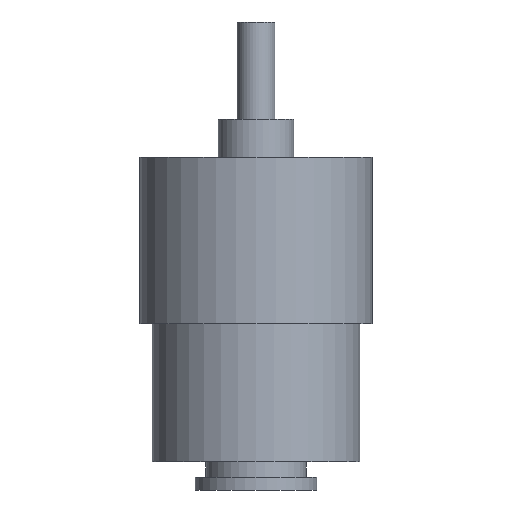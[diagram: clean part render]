
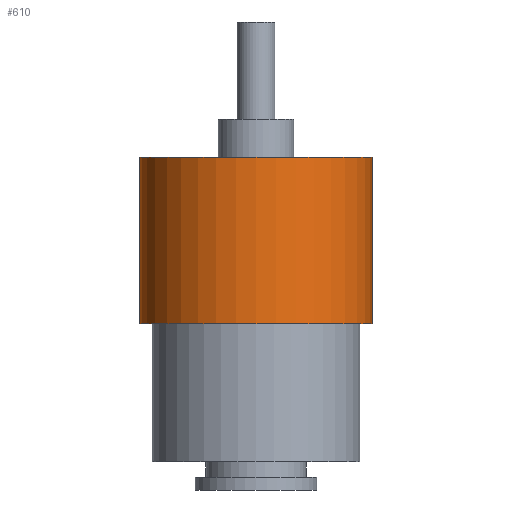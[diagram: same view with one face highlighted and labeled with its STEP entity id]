
A CAD part, front view. The second image highlights one B-rep face of the part: STEP entity #610.
In plain terms, the highlighted cylindrical face has radius 18.5 mm (diameter 37 mm), a partial arc.
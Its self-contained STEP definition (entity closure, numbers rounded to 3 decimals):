
#20 = VERTEX_POINT ( 'NONE', #588 ) ;
#75 = EDGE_CURVE ( 'NONE', #231, #1238, #1154, .T. ) ;
#85 = ORIENTED_EDGE ( 'NONE', *, *, #75, .T. ) ;
#89 = DIRECTION ( 'NONE',  ( 1., 0., 0. ) ) ;
#113 = DIRECTION ( 'NONE',  ( -1., 0., 0. ) ) ;
#169 = CARTESIAN_POINT ( 'NONE',  ( 18.5, 0., 26.5 ) ) ;
#206 = DIRECTION ( 'NONE',  ( 0., 0., -1. ) ) ;
#231 = VERTEX_POINT ( 'NONE', #1209 ) ;
#277 = AXIS2_PLACEMENT_3D ( 'NONE', #315, #206, #113 ) ;
#315 = CARTESIAN_POINT ( 'NONE',  ( 0., 0., 26.5 ) ) ;
#323 = VERTEX_POINT ( 'NONE', #566 ) ;
#340 = VECTOR ( 'NONE', #464, 1000. ) ;
#386 = CARTESIAN_POINT ( 'NONE',  ( 0., 0., 26.5 ) ) ;
#457 = EDGE_CURVE ( 'NONE', #20, #323, #1249, .T. ) ;
#464 = DIRECTION ( 'NONE',  ( 0., 0., -1. ) ) ;
#470 = DIRECTION ( 'NONE',  ( 0., 0., 1. ) ) ;
#506 = DIRECTION ( 'NONE',  ( 0., 0., -1. ) ) ;
#536 = ORIENTED_EDGE ( 'NONE', *, *, #457, .F. ) ;
#547 = FACE_OUTER_BOUND ( 'NONE', #1124, .T. ) ;
#561 = AXIS2_PLACEMENT_3D ( 'NONE', #386, #675, #89 ) ;
#566 = CARTESIAN_POINT ( 'NONE',  ( 18.5, 0., 26.5 ) ) ;
#572 = ORIENTED_EDGE ( 'NONE', *, *, #633, .T. ) ;
#588 = CARTESIAN_POINT ( 'NONE',  ( -18.5, 0., 26.5 ) ) ;
#597 = AXIS2_PLACEMENT_3D ( 'NONE', #975, #470, #1258 ) ;
#610 = ADVANCED_FACE ( 'NONE', ( #547 ), #749, .T. ) ;
#633 = EDGE_CURVE ( 'NONE', #20, #231, #1168, .T. ) ;
#675 = DIRECTION ( 'NONE',  ( 0., 0., 1. ) ) ;
#749 = CYLINDRICAL_SURFACE ( 'NONE', #277, 18.5 ) ;
#811 = VECTOR ( 'NONE', #506, 1000. ) ;
#835 = ORIENTED_EDGE ( 'NONE', *, *, #900, .F. ) ;
#853 = LINE ( 'NONE', #169, #340 ) ;
#900 = EDGE_CURVE ( 'NONE', #323, #1238, #853, .T. ) ;
#920 = CARTESIAN_POINT ( 'NONE',  ( 18.5, 0., 0. ) ) ;
#975 = CARTESIAN_POINT ( 'NONE',  ( 0., 0., 0. ) ) ;
#1095 = CARTESIAN_POINT ( 'NONE',  ( -18.5, 0., 26.5 ) ) ;
#1124 = EDGE_LOOP ( 'NONE', ( #835, #536, #572, #85 ) ) ;
#1154 = CIRCLE ( 'NONE', #597, 18.5 ) ;
#1168 = LINE ( 'NONE', #1095, #811 ) ;
#1209 = CARTESIAN_POINT ( 'NONE',  ( -18.5, 0., 0. ) ) ;
#1238 = VERTEX_POINT ( 'NONE', #920 ) ;
#1249 = CIRCLE ( 'NONE', #561, 18.5 ) ;
#1258 = DIRECTION ( 'NONE',  ( 1., 0., 0. ) ) ;
